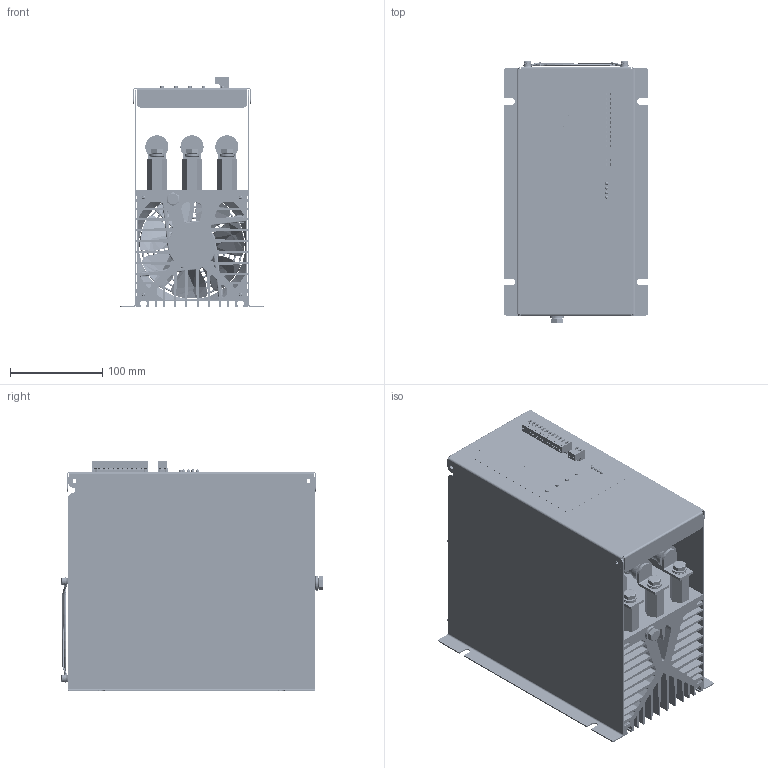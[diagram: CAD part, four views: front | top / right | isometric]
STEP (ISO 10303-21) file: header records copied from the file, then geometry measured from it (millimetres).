
FILE_DESCRIPTION(('STEP AP203'), '1');
FILE_NAME('ÒÐÌ-2Ì-125...180-RS485, ÒÐÌ-3Ì-80...180-RS485, ÒÐÌ-3ÌN-80...180-RS485', '2025-03-25T06:20:36', (''), ('ÎÎÎ "Ìåàíäð"'), 'C3D Converter', 'C3D Toolkit', '');
FILE_SCHEMA(('CONFIG_CONTROL_DESIGN'));
Length unit declared in the file: millimetre
Products named in the file (2): МР 83.0608.18 СБ
Assembly tree (10 placements, depth 2):
  (unnamed)
    МР 83.0608.18 СБ  x10
Bounding box: 155 x 283.91 x 249.4 mm (x, y, z)
Volume: 2220429.4 mm3; surface area: 1128144.9 mm2
Topology: 12 solids, 40 shells, 6290 faces, 17982 edges, 11852 vertices
Faces by surface type: plane 3527, extrusion 1716, cylinder 824, bspline 100, torus 60, cone 55, sphere 8
Full cylindrical faces by diameter (mm): 1.8 x4, 3 x3, 3.1 x14, 3.3 x8, 3.9 x14, 4 x12, 4.2 x4, 4.3 x4, 4.572 x8, 6.1 x4, 8 x15, 8.4 x10, 8.8 x1, 9 x4, 11.6 x10, 16 x20, 21.5 x3, 25 x6, 38.1 x1, 115.062 x1, 118.662 x1
Entity records: 309876 total; most frequent: CARTESIAN_POINT 114535, ORIENTED_EDGE 33608, DIRECTION 24383, EDGE_CURVE 16804, VECTOR 12761, VERTEX_POINT 11173, LINE 11045, EDGE_LOOP 6417
